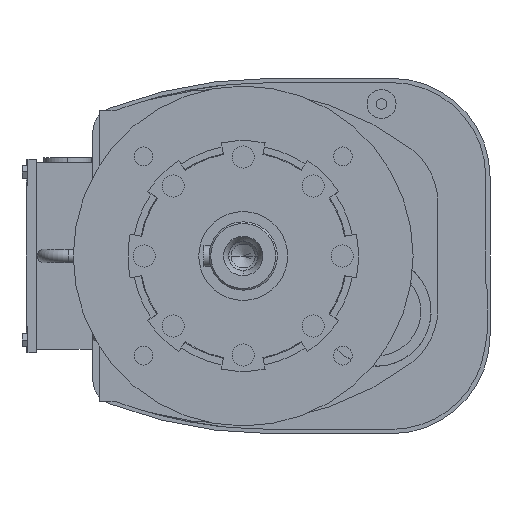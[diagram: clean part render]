
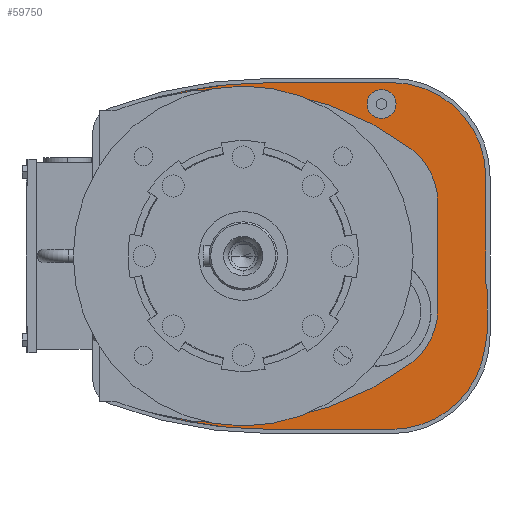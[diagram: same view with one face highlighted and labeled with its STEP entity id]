
A CAD part, left-side view. The second image highlights one B-rep face of the part: STEP entity #59750.
In plain terms, the highlighted planar face has unit normal (-1, 0, 0).
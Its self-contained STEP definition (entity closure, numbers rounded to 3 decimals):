
#100=CARTESIAN_POINT('',(122.5,1.,-138.5));
#110=VERTEX_POINT('',#100);
#160=CARTESIAN_POINT('',(122.5,0.,-138.5));
#170=DIRECTION('',(0.,-1.,0.));
#180=VECTOR('',#170,1.);
#190=LINE('',#160,#180);
#200=CARTESIAN_POINT('',(122.5,-70.,-138.5));
#210=VERTEX_POINT('',#200);
#220=EDGE_CURVE('',#110,#210,#190,.T.);
#14700=CARTESIAN_POINT('',(122.5,-124.384,-91.707));
#14710=VERTEX_POINT('',#14700);
#14740=CARTESIAN_POINT('',(122.5,-138.223,0.));
#14750=DIRECTION('',(0.,0.149,-0.989));
#14760=VECTOR('',#14750,1.);
#14770=LINE('',#14740,#14760);
#14780=CARTESIAN_POINT('',(122.5,-126.,-81.));
#14790=VERTEX_POINT('',#14780);
#14800=EDGE_CURVE('',#14790,#14710,#14770,.T.);
#21840=CARTESIAN_POINT('',(122.5,-97.,-67.884));
#21850=VERTEX_POINT('',#21840);
#21880=CARTESIAN_POINT('',(122.5,-57.,-67.884));
#21890=DIRECTION('',(1.,0.,0.));
#21900=DIRECTION('',(0.,0.,-1.));
#21910=AXIS2_PLACEMENT_3D('',#21880,#21890,#21900);
#21920=CIRCLE('',#21910,40.);
#21930=CARTESIAN_POINT('',(122.5,-81.127,-99.788));
#21940=VERTEX_POINT('',#21930);
#21950=EDGE_CURVE('',#21850,#21940,#21920,.T.);
#32970=CARTESIAN_POINT('',(122.5,24.429,-113.793));
#32980=DIRECTION('',(-1.,0.,0.));
#32990=DIRECTION('',(0.,-1.,0.));
#33000=AXIS2_PLACEMENT_3D('',#32970,#32980,#32990);
#33010=CIRCLE('',#33000,175.);
#33020=CARTESIAN_POINT('',(122.5,-81.127,25.788));
#33030=VERTEX_POINT('',#33020);
#33040=CARTESIAN_POINT('',(122.5,72.666,54.428));
#33050=VERTEX_POINT('',#33040);
#33060=EDGE_CURVE('',#33030,#33050,#33010,.T.);
#33290=CARTESIAN_POINT('',(122.5,24.429,39.793));
#33300=DIRECTION('',(1.,0.,0.));
#33310=DIRECTION('',(0.,-1.,0.));
#33320=AXIS2_PLACEMENT_3D('',#33290,#33300,#33310);
#33330=CIRCLE('',#33320,175.);
#33340=CARTESIAN_POINT('',(122.5,72.666,-128.428));
#33350=VERTEX_POINT('',#33340);
#33360=EDGE_CURVE('',#21940,#33350,#33330,.T.);
#35080=CARTESIAN_POINT('',(122.5,-126.,0.));
#35090=DIRECTION('',(0.,0.,1.));
#35100=VECTOR('',#35090,1.);
#35110=LINE('',#35080,#35100);
#35120=CARTESIAN_POINT('',(122.5,-126.,-58.));
#35130=VERTEX_POINT('',#35120);
#35140=EDGE_CURVE('',#14790,#35130,#35110,.T.);
#41050=CARTESIAN_POINT('',(122.5,-125.,-52.329));
#41060=VERTEX_POINT('',#41050);
#41160=CARTESIAN_POINT('',(122.5,-115.773,0.));
#41170=DIRECTION('',(0.,0.174,0.985));
#41180=VECTOR('',#41170,1.);
#41190=LINE('',#41160,#41180);
#41200=EDGE_CURVE('',#35130,#41060,#41190,.T.);
#43460=CARTESIAN_POINT('',(122.5,-125.,0.));
#43470=DIRECTION('',(0.,0.,-1.));
#43480=VECTOR('',#43470,1.);
#43490=LINE('',#43460,#43480);
#43500=CARTESIAN_POINT('',(122.5,-125.,9.5));
#43510=VERTEX_POINT('',#43500);
#43520=EDGE_CURVE('',#43510,#41060,#43490,.T.);
#43710=CARTESIAN_POINT('',(122.5,-70.,-83.5));
#43720=DIRECTION('',(-1.,0.,0.));
#43730=DIRECTION('',(0.,-1.,0.));
#43740=AXIS2_PLACEMENT_3D('',#43710,#43720,#43730);
#43750=CIRCLE('',#43740,55.);
#43760=EDGE_CURVE('',#210,#14710,#43750,.T.);
#53420=CARTESIAN_POINT('',(122.5,-97.,-6.116));
#53430=VERTEX_POINT('',#53420);
#53460=CARTESIAN_POINT('',(122.5,-97.,0.));
#53470=DIRECTION('',(0.,0.,-1.));
#53480=VECTOR('',#53470,1.);
#53490=LINE('',#53460,#53480);
#53500=EDGE_CURVE('',#53430,#21850,#53490,.T.);
#55620=CARTESIAN_POINT('',(122.5,1.,121.5));
#55630=DIRECTION('',(-1.,0.,0.));
#55640=DIRECTION('',(0.,1.,0.));
#55650=AXIS2_PLACEMENT_3D('',#55620,#55630,#55640);
#55660=CIRCLE('',#55650,260.);
#55670=EDGE_CURVE('',#33350,#110,#55660,.T.);
#59110=CARTESIAN_POINT('',(122.5,-24.611,-86.91));
#59120=DIRECTION('',(-1.,0.,0.));
#59130=DIRECTION('',(0.,1.,0.));
#59140=AXIS2_PLACEMENT_3D('',#59110,#59120,#59130);
#59150=PLANE('',#59140);
#59160=ORIENTED_EDGE('',*,*,#41200,.T.);
#59170=ORIENTED_EDGE('',*,*,#35140,.T.);
#59180=ORIENTED_EDGE('',*,*,#14800,.F.);
#59190=ORIENTED_EDGE('',*,*,#43760,.T.);
#59200=ORIENTED_EDGE('',*,*,#220,.T.);
#59210=ORIENTED_EDGE('',*,*,#55670,.T.);
#59220=ORIENTED_EDGE('',*,*,#33360,.T.);
#59230=ORIENTED_EDGE('',*,*,#21950,.T.);
#59240=ORIENTED_EDGE('',*,*,#53500,.T.);
#59250=CARTESIAN_POINT('',(122.5,-57.,-6.116));
#59260=DIRECTION('',(-1.,0.,0.));
#59270=DIRECTION('',(0.,0.,1.));
#59280=AXIS2_PLACEMENT_3D('',#59250,#59260,#59270);
#59290=CIRCLE('',#59280,40.);
#59300=EDGE_CURVE('',#53430,#33030,#59290,.T.);
#59310=ORIENTED_EDGE('',*,*,#59300,.F.);
#59320=ORIENTED_EDGE('',*,*,#33060,.F.);
#59330=CARTESIAN_POINT('',(122.5,1.,-195.5));
#59340=DIRECTION('',(1.,0.,0.));
#59350=DIRECTION('',(0.,1.,0.));
#59360=AXIS2_PLACEMENT_3D('',#59330,#59340,#59350);
#59370=CIRCLE('',#59360,260.);
#59380=CARTESIAN_POINT('',(122.5,1.,64.5));
#59390=VERTEX_POINT('',#59380);
#59400=EDGE_CURVE('',#33050,#59390,#59370,.T.);
#59410=ORIENTED_EDGE('',*,*,#59400,.F.);
#59420=CARTESIAN_POINT('',(122.5,0.,64.5));
#59430=DIRECTION('',(0.,-1.,0.));
#59440=VECTOR('',#59430,1.);
#59450=LINE('',#59420,#59440);
#59460=CARTESIAN_POINT('',(122.5,-70.,64.5));
#59470=VERTEX_POINT('',#59460);
#59480=EDGE_CURVE('',#59390,#59470,#59450,.T.);
#59490=ORIENTED_EDGE('',*,*,#59480,.F.);
#59500=CARTESIAN_POINT('',(122.5,-70.,9.5));
#59510=DIRECTION('',(1.,0.,0.));
#59520=DIRECTION('',(0.,-1.,0.));
#59530=AXIS2_PLACEMENT_3D('',#59500,#59510,#59520);
#59540=CIRCLE('',#59530,55.);
#59550=EDGE_CURVE('',#59470,#43510,#59540,.T.);
#59560=ORIENTED_EDGE('',*,*,#59550,.F.);
#59570=ORIENTED_EDGE('',*,*,#43520,.F.);
#59580=EDGE_LOOP('',(#59570,#59560,#59490,#59410,#59320,#59310,#59240,#59230,#59220,#59210,#59200,#59190,#59180,#59170,#59160));
#59590=FACE_OUTER_BOUND('',#59580,.T.);
#59600=CARTESIAN_POINT('',(122.5,-64.,52.));
#59610=DIRECTION('',(-1.,0.,0.));
#59620=DIRECTION('',(0.,1.,0.));
#59630=AXIS2_PLACEMENT_3D('',#59600,#59610,#59620);
#59640=CIRCLE('',#59630,8.5);
#59650=CARTESIAN_POINT('',(122.5,-55.5,52.));
#59660=VERTEX_POINT('',#59650);
#59670=CARTESIAN_POINT('',(122.5,-72.5,52.));
#59680=VERTEX_POINT('',#59670);
#59690=EDGE_CURVE('',#59660,#59680,#59640,.T.);
#59700=ORIENTED_EDGE('',*,*,#59690,.F.);
#59710=EDGE_CURVE('',#59680,#59660,#59640,.T.);
#59720=ORIENTED_EDGE('',*,*,#59710,.F.);
#59730=EDGE_LOOP('',(#59720,#59700));
#59740=FACE_BOUND('',#59730,.T.);
#59750=ADVANCED_FACE('',(#59590,#59740),#59150,.T.);
